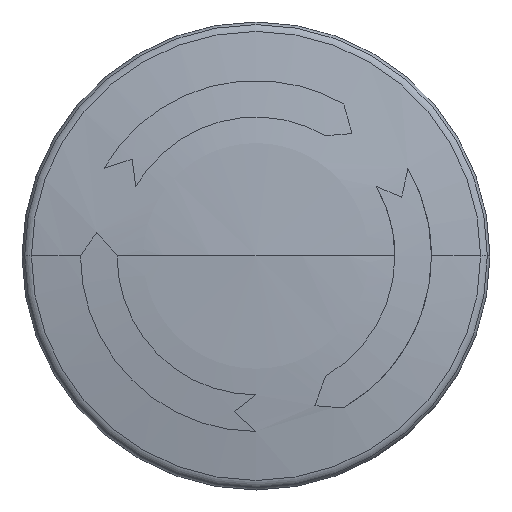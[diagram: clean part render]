
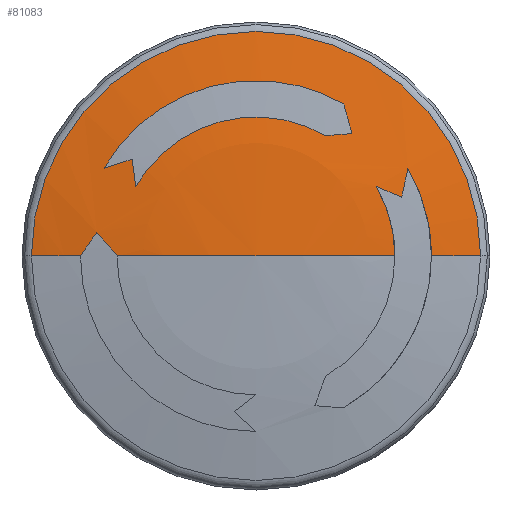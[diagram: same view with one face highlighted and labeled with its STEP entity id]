
A CAD part, top view. The second image highlights one B-rep face of the part: STEP entity #81083.
In plain terms, the highlighted spherical face has radius 99 mm.
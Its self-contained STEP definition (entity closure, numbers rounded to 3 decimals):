
#80180=CARTESIAN_POINT('',(-10.208,6.994,-51.2));
#80181=DIRECTION('',(-0.825,0.565,0.));
#80182=DIRECTION('',(-0.049,-0.071,0.996));
#80183=AXIS2_PLACEMENT_3D('',#80180,#80181,#80182);
#80185=CARTESIAN_POINT('',(0.,0.,-51.2));
#80186=DIRECTION('',(0.,-1.,0.));
#80187=DIRECTION('',(-0.152,0.,0.988));
#80188=AXIS2_PLACEMENT_3D('',#80185,#80186,#80187);
#80190=CARTESIAN_POINT('',(0.,0.,-51.2));
#80191=DIRECTION('',(0.,1.,0.));
#80192=DIRECTION('',(0.152,0.,0.988));
#80193=AXIS2_PLACEMENT_3D('',#80190,#80191,#80192);
#80195=CARTESIAN_POINT('',(15.,0.,
46.657));
#80196=CARTESIAN_POINT('',(15.,0.658,
46.657));
#80197=CARTESIAN_POINT('',(14.914,1.971,46.657));
#80198=CARTESIAN_POINT('',(14.531,3.889,46.657));
#80199=CARTESIAN_POINT('',(13.905,5.743,46.657));
#80200=CARTESIAN_POINT('',(13.32,6.929,46.657));
#80201=CARTESIAN_POINT('',(12.989,7.503,46.657));
#80203=CARTESIAN_POINT('',(10.881,-2.332,-51.2));
#80204=DIRECTION('',(0.978,-0.21,0.));
#80205=DIRECTION('',(0.021,0.1,0.995));
#80206=AXIS2_PLACEMENT_3D('',#80203,#80204,#80205);
#80208=CARTESIAN_POINT('',(3.656,8.717,-51.2));
#80209=DIRECTION('',(0.387,0.922,0.));
#80210=DIRECTION('',(0.067,-0.028,0.997));
#80211=AXIS2_PLACEMENT_3D('',#80208,#80209,#80210);
#80213=CARTESIAN_POINT('',(10.284,5.937,47.085));
#80214=CARTESIAN_POINT('',(10.545,5.485,47.085));
#80215=CARTESIAN_POINT('',(11.007,4.549,47.085));
#80216=CARTESIAN_POINT('',(11.507,3.068,47.085));
#80217=CARTESIAN_POINT('',(11.808,1.55,47.085));
#80218=CARTESIAN_POINT('',(11.875,0.516,
47.085));
#80219=CARTESIAN_POINT('',(11.875,0.,
47.085));
#80221=CARTESIAN_POINT('',(0.,0.,-51.2));
#80222=DIRECTION('',(0.,1.,0.));
#80223=DIRECTION('',(0.,0.,1.));
#80224=AXIS2_PLACEMENT_3D('',#80221,#80222,#80223);
#80226=CARTESIAN_POINT('',(0.,0.,-51.2));
#80227=DIRECTION('',(0.,-1.,0.));
#80228=DIRECTION('',(0.,0.,1.));
#80229=AXIS2_PLACEMENT_3D('',#80226,#80227,#80228);
#80231=CARTESIAN_POINT('',(-6.9,-5.859,-51.2));
#80232=DIRECTION('',(0.762,0.647,0.));
#80233=DIRECTION('',(-0.068,0.08,0.994));
#80234=AXIS2_PLACEMENT_3D('',#80231,#80232,#80233);
#80533=CARTESIAN_POINT('',(0.,0.,45.922));
#80534=DIRECTION('',(0.,0.,-1.));
#80535=DIRECTION('',(-1.,0.,0.));
#80536=AXIS2_PLACEMENT_3D('',#80533,#80534,#80535);
#80824=CARTESIAN_POINT('',(-15.,0.,
46.657));
#80826=VERTEX_POINT('',#80824);
#80829=CARTESIAN_POINT('',(-11.875,0.,
47.085));
#80831=VERTEX_POINT('',#80829);
#80847=CARTESIAN_POINT('',(-13.604,2.037,46.84));
#80848=VERTEX_POINT('',#80847);
#80852=CARTESIAN_POINT('',(10.283,5.937,47.085));
#80854=VERTEX_POINT('',#80852);
#80871=CARTESIAN_POINT('',(12.458,5.025,46.884));
#80872=VERTEX_POINT('',#80871);
#80873=CARTESIAN_POINT('',(0.,0.,47.8));
#80874=VERTEX_POINT('',#80873);
#80875=CARTESIAN_POINT('',(11.875,0.,
47.085));
#80876=VERTEX_POINT('',#80875);
#80877=CARTESIAN_POINT('',(15.,0.,
46.657));
#80878=CARTESIAN_POINT('',(19.194,0.,
45.922));
#80879=VERTEX_POINT('',#80877);
#80880=VERTEX_POINT('',#80878);
#80881=CARTESIAN_POINT('',(-19.194,0.,
45.922));
#80882=VERTEX_POINT('',#80881);
#80889=VERTEX_POINT('',#80201);
#81058=CARTESIAN_POINT('',(0.,0.,-51.2));
#81059=DIRECTION('',(0.,0.,-1.));
#81060=DIRECTION('',(1.,0.,0.));
#81061=AXIS2_PLACEMENT_3D('',#81058,#81059,#81060);
#81062=SPHERICAL_SURFACE('',#81061,99.);
#81064=ORIENTED_EDGE('',*,*,#81063,.F.);
#81065=ORIENTED_EDGE('',*,*,#81053,.T.);
#81067=ORIENTED_EDGE('',*,*,#81066,.T.);
#81068=ORIENTED_EDGE('',*,*,#81049,.F.);
#81070=ORIENTED_EDGE('',*,*,#81069,.T.);
#81072=ORIENTED_EDGE('',*,*,#81071,.T.);
#81074=ORIENTED_EDGE('',*,*,#81073,.F.);
#81076=ORIENTED_EDGE('',*,*,#81075,.T.);
#81077=ORIENTED_EDGE('',*,*,#81039,.F.);
#81078=ORIENTED_EDGE('',*,*,#81037,.T.);
#81080=ORIENTED_EDGE('',*,*,#81079,.F.);
#81081=EDGE_LOOP('',(#81064,#81065,#81067,#81068,#81070,#81072,#81074,#81076,
#81077,#81078,#81080));
#81082=FACE_OUTER_BOUND('',#81081,.F.);
#81083=ADVANCED_FACE('',(#81082),#81062,.T.);
#80184=CIRCLE('',#80183,98.224);
#80189=CIRCLE('',#80188,99.);
#80194=CIRCLE('',#80193,99.);
#80202=B_SPLINE_CURVE_WITH_KNOTS('',3,(#80195,#80196,#80197,#80198,#80199,
#80200,#80201),.UNSPECIFIED.,.F.,.F.,(4,1,1,1,4),(0.,0.25,0.5,0.75,
1.),.UNSPECIFIED.);
#80207=CIRCLE('',#80206,98.373);
#80212=CIRCLE('',#80211,98.548);
#80220=B_SPLINE_CURVE_WITH_KNOTS('',3,(#80213,#80214,#80215,#80216,#80217,
#80218,#80219),.UNSPECIFIED.,.F.,.F.,(4,1,1,1,4),(0.,0.25,0.5,0.75,
1.),.UNSPECIFIED.);
#80225=CIRCLE('',#80224,99.);
#80230=CIRCLE('',#80229,99.);
#80235=CIRCLE('',#80234,98.585);
#80537=CIRCLE('',#80536,19.194);
#81037=EDGE_CURVE('',#80874,#80831,#80230,.T.);
#81039=EDGE_CURVE('',#80874,#80876,#80225,.T.);
#81049=EDGE_CURVE('',#80879,#80880,#80194,.T.);
#81053=EDGE_CURVE('',#80826,#80882,#80189,.T.);
#81063=EDGE_CURVE('',#80826,#80848,#80184,.T.);
#81066=EDGE_CURVE('',#80882,#80880,#80537,.T.);
#81069=EDGE_CURVE('',#80879,#80889,#80202,.T.);
#81071=EDGE_CURVE('',#80889,#80872,#80207,.T.);
#81073=EDGE_CURVE('',#80854,#80872,#80212,.T.);
#81075=EDGE_CURVE('',#80854,#80876,#80220,.T.);
#81079=EDGE_CURVE('',#80848,#80831,#80235,.T.);
